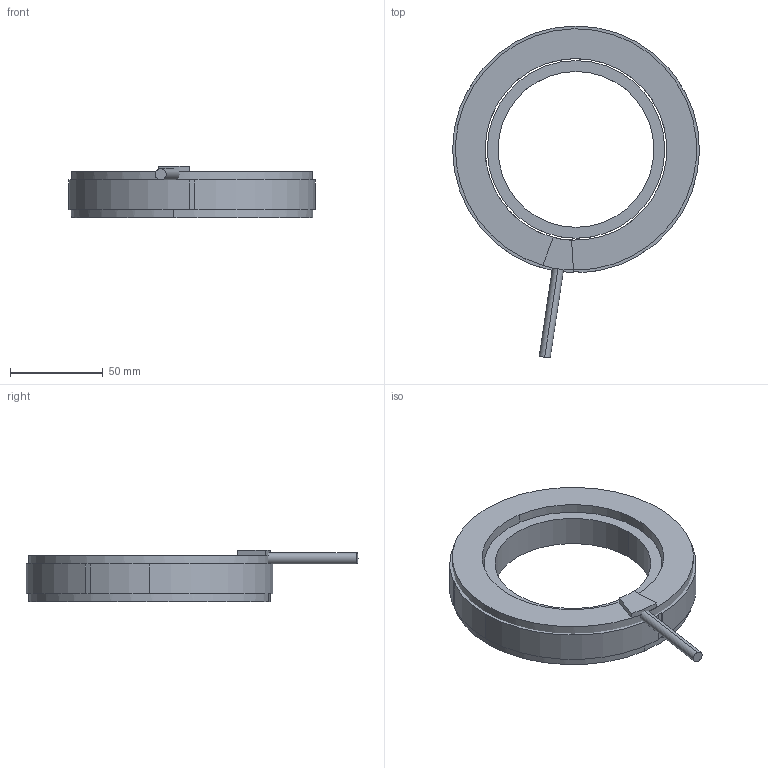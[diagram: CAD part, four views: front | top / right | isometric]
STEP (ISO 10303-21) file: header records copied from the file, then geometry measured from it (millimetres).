
FILE_DESCRIPTION (( 'STEP AP203' ), '1' );
FILE_NAME ('TM133-25 KIT.STEP', '2021-06-21T05:27:54', ( '' ), ( '' ), 'SwSTEP 2.0', 'SolidWorks 2021', '' );
FILE_SCHEMA (( 'CONFIG_CONTROL_DESIGN' ));
Length unit declared in the file: millimetre
Products named in the file (1): TM133-25 KIT
Bounding box: 133 x 178.9 x 28 mm (x, y, z)
Volume: 204644.4 mm3; surface area: 60621.5 mm2
Topology: 4 solids, 4 shells, 131 faces, 364 edges, 240 vertices
Faces by surface type: plane 72, cylinder 59
Entity records: 4307 total; most frequent: DIRECTION 750, CARTESIAN_POINT 736, ORIENTED_EDGE 728, EDGE_CURVE 364, AXIS2_PLACEMENT_3D 254, VECTOR 242, LINE 242, VERTEX_POINT 240
